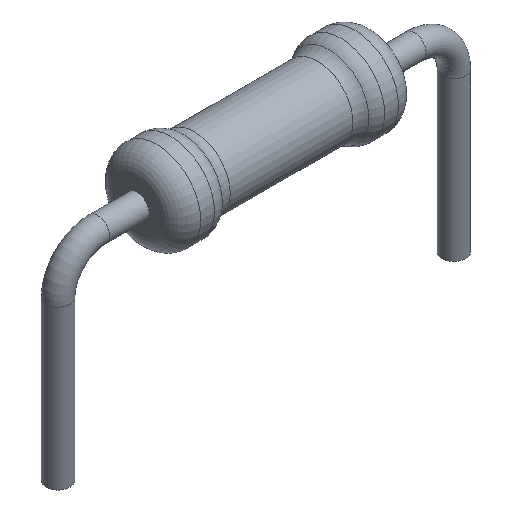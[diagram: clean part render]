
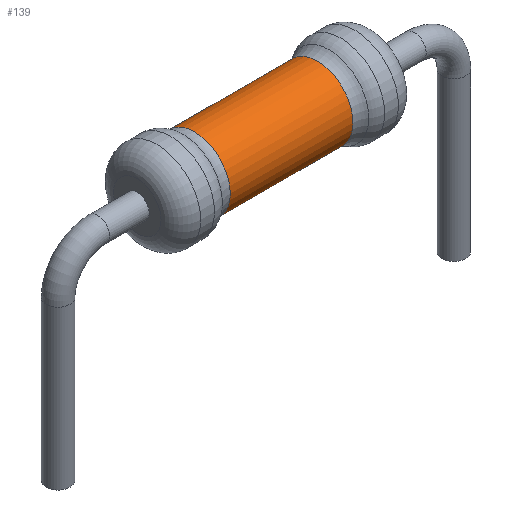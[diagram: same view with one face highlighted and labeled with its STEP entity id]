
A CAD part, isometric view. The second image highlights one B-rep face of the part: STEP entity #139.
In plain terms, the highlighted cylindrical face has radius 0.9 mm (diameter 1.8 mm), a full revolution.
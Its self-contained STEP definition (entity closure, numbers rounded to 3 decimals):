
#139=ADVANCED_FACE('',(#308,#310),#312,.T.);
#308=FACE_OUTER_BOUND('',#309,.T.);
#309=EDGE_LOOP('',(#413));
#310=FACE_OUTER_BOUND('',#311,.T.);
#311=EDGE_LOOP('',(#414));
#312=CYLINDRICAL_SURFACE('',#313,0.9);
#313=AXIS2_PLACEMENT_3D('',#314,#315,#316);
#314=CARTESIAN_POINT('',(1.55,0.,0.));
#315=DIRECTION('',(-1.,0.,0.));
#316=DIRECTION('',(0.,0.,1.));
#413=ORIENTED_EDGE('',*,*,#440,.T.);
#414=ORIENTED_EDGE('',*,*,#441,.F.);
#440=EDGE_CURVE('',#466,#466,#467,.T.);
#441=EDGE_CURVE('',#468,#468,#469,.T.);
#466=VERTEX_POINT('',#526);
#467=CIRCLE('',#527,0.9);
#468=VERTEX_POINT('',#531);
#469=CIRCLE('',#532,0.9);
#526=CARTESIAN_POINT('',(1.55,0.,0.9));
#527=AXIS2_PLACEMENT_3D('',#528,#529,#530);
#528=CARTESIAN_POINT('',(1.55,0.,0.));
#529=DIRECTION('',(-1.,0.,0.));
#530=DIRECTION('',(0.,0.,1.));
#531=CARTESIAN_POINT('',(-1.55,0.,0.9));
#532=AXIS2_PLACEMENT_3D('',#533,#534,#535);
#533=CARTESIAN_POINT('',(-1.55,0.,0.));
#534=DIRECTION('',(-1.,0.,0.));
#535=DIRECTION('',(0.,0.,1.));
